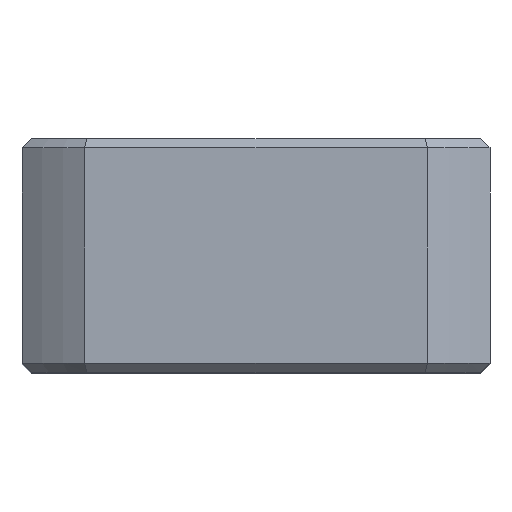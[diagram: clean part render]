
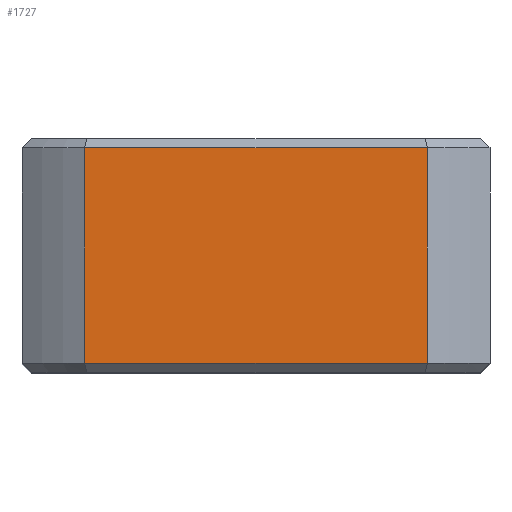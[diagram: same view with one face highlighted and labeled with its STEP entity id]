
A CAD part, top view. The second image highlights one B-rep face of the part: STEP entity #1727.
In plain terms, the highlighted planar face has unit normal (0, 0, 1).
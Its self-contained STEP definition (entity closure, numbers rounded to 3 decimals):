
#187 = VERTEX_POINT ( 'NONE', #890 ) ;
#194 = EDGE_CURVE ( 'NONE', #195, #196, #934, .T. ) ;
#195 = VERTEX_POINT ( 'NONE', #930 ) ;
#196 = VERTEX_POINT ( 'NONE', #929 ) ;
#269 = VERTEX_POINT ( 'NONE', #1047 ) ;
#271 = EDGE_CURVE ( 'NONE', #187, #269, #1111, .T. ) ;
#890 = CARTESIAN_POINT ( 'NONE',  ( 18.31, -11.5, 35. ) ) ;
#929 = CARTESIAN_POINT ( 'NONE',  ( -18.31, -11.5, 35. ) ) ;
#930 = CARTESIAN_POINT ( 'NONE',  ( -18.31, 11.5, 35. ) ) ;
#931 = DIRECTION ( 'NONE',  ( 0., -1., 0. ) ) ;
#932 = VECTOR ( 'NONE', #931, 1000. ) ;
#933 = CARTESIAN_POINT ( 'NONE',  ( -18.31, 12.5, 35. ) ) ;
#934 = LINE ( 'NONE', #933, #932 ) ;
#1047 = CARTESIAN_POINT ( 'NONE',  ( 18.31, 11.5, 35. ) ) ;
#1108 = DIRECTION ( 'NONE',  ( 0., 1., 0. ) ) ;
#1109 = VECTOR ( 'NONE', #1108, 1000. ) ;
#1110 = CARTESIAN_POINT ( 'NONE',  ( 18.31, 12.5, 35. ) ) ;
#1111 = LINE ( 'NONE', #1110, #1109 ) ;
#1566 = DIRECTION ( 'NONE',  ( 1., 0., 0. ) ) ;
#1567 = DIRECTION ( 'NONE',  ( 0., 0., 1. ) ) ;
#1568 = CARTESIAN_POINT ( 'NONE',  ( -25., -12.5, 35. ) ) ;
#1569 = AXIS2_PLACEMENT_3D ( 'NONE', #1568, #1567, #1566 ) ;
#1570 = PLANE ( 'NONE',  #1569 ) ;
#1572 = FACE_OUTER_BOUND ( 'NONE', #1725, .T. ) ;
#1573 = DIRECTION ( 'NONE',  ( -1., 0., 0. ) ) ;
#1574 = VECTOR ( 'NONE', #1573, 1000. ) ;
#1575 = CARTESIAN_POINT ( 'NONE',  ( -25., 11.5, 35. ) ) ;
#1576 = LINE ( 'NONE', #1575, #1574 ) ;
#1595 = DIRECTION ( 'NONE',  ( 1., 0., 0. ) ) ;
#1596 = VECTOR ( 'NONE', #1595, 1000. ) ;
#1597 = CARTESIAN_POINT ( 'NONE',  ( 18.31, -11.5, 35. ) ) ;
#1603 = LINE ( 'NONE', #1597, #1596 ) ;
#1716 = ORIENTED_EDGE ( 'NONE', *, *, #194, .T. ) ;
#1718 = ORIENTED_EDGE ( 'NONE', *, *, #1726, .T. ) ;
#1724 = ORIENTED_EDGE ( 'NONE', *, *, #271, .T. ) ;
#1725 = EDGE_LOOP ( 'NONE', ( #1724, #1718, #1716, #1742 ) ) ;
#1726 = EDGE_CURVE ( 'NONE', #269, #195, #1576, .T. ) ;
#1727 = ADVANCED_FACE ( 'NONE', ( #1572 ), #1570, .T. ) ;
#1742 = ORIENTED_EDGE ( 'NONE', *, *, #1743, .T. ) ;
#1743 = EDGE_CURVE ( 'NONE', #196, #187, #1603, .T. ) ;
